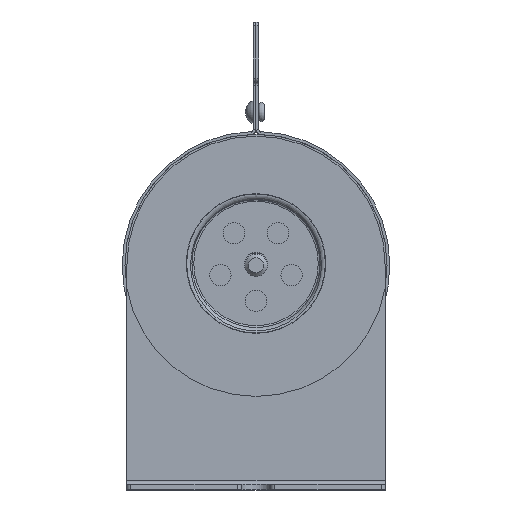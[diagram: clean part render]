
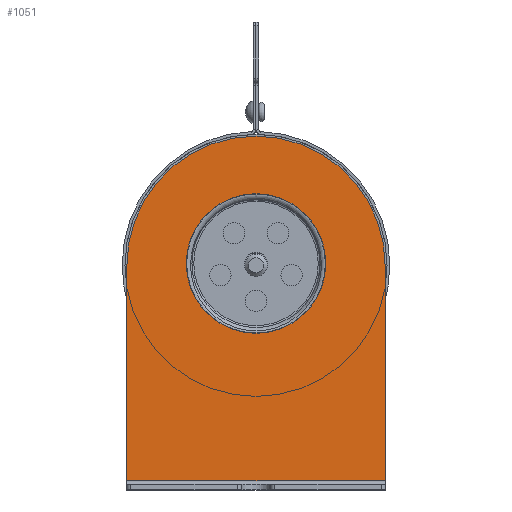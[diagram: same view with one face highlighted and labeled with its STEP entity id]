
A CAD part, left-side view. The second image highlights one B-rep face of the part: STEP entity #1051.
In plain terms, the highlighted planar face has unit normal (-1, 0, 0) as drawn and (1, 0, 0) by its records, which use the part's own axes.
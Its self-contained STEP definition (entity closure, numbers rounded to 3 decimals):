
#1051=ADVANCED_FACE('',(#1904,#1906),#1908,.T.);
#1904=FACE_BOUND('',#1905,.T.);
#1905=EDGE_LOOP('',(#3084,#3085,#3086,#3087));
#1906=FACE_BOUND('',#1907,.T.);
#1907=EDGE_LOOP('',(#3088));
#1908=PLANE('',#1909);
#1909=AXIS2_PLACEMENT_3D('',#1910,#1911,#1912);
#1910=CARTESIAN_POINT('',(1.5,0.,0.));
#1911=DIRECTION('',(1.,0.,0.));
#1912=DIRECTION('',(0.,1.,0.));
#3084=ORIENTED_EDGE('',*,*,#3724,.T.);
#3085=ORIENTED_EDGE('',*,*,#3725,.T.);
#3086=ORIENTED_EDGE('',*,*,#3726,.T.);
#3087=ORIENTED_EDGE('',*,*,#3727,.T.);
#3088=ORIENTED_EDGE('',*,*,#3722,.F.);
#3722=EDGE_CURVE('',#4081,#4081,#4082,.T.);
#3724=EDGE_CURVE('',#4085,#4086,#4087,.T.);
#3725=EDGE_CURVE('',#4086,#4088,#4089,.T.);
#3726=EDGE_CURVE('',#4088,#4090,#4091,.T.);
#3727=EDGE_CURVE('',#4090,#4085,#4092,.T.);
#4081=VERTEX_POINT('',#4717);
#4082=CIRCLE('',#4718,18.64);
#4085=VERTEX_POINT('',#4727);
#4086=VERTEX_POINT('',#4728);
#4087=LINE('',#4729,#4730);
#4088=VERTEX_POINT('',#4732);
#4089=LINE('',#4733,#4734);
#4090=VERTEX_POINT('',#4736);
#4091=CIRCLE('',#4737,34.5);
#4092=LINE('',#4741,#4742);
#4717=CARTESIAN_POINT('',(1.5,18.64,15.));
#4718=AXIS2_PLACEMENT_3D('',#4719,#4720,#4721);
#4719=CARTESIAN_POINT('',(1.5,0.,15.));
#4720=DIRECTION('',(1.,0.,0.));
#4721=DIRECTION('',(0.,1.,0.));
#4727=CARTESIAN_POINT('',(1.5,-34.5,-43.));
#4728=CARTESIAN_POINT('',(1.5,34.5,-43.));
#4729=CARTESIAN_POINT('',(1.5,-34.5,-43.));
#4730=VECTOR('',#4731,1.);
#4731=DIRECTION('',(0.,1.,0.));
#4732=CARTESIAN_POINT('',(1.5,34.5,14.5));
#4733=CARTESIAN_POINT('',(1.5,34.5,-43.));
#4734=VECTOR('',#4735,1.);
#4735=DIRECTION('',(0.,0.,1.));
#4736=CARTESIAN_POINT('',(1.5,-34.5,14.5));
#4737=AXIS2_PLACEMENT_3D('',#4738,#4739,#4740);
#4738=CARTESIAN_POINT('',(1.5,0.,14.5));
#4739=DIRECTION('',(1.,0.,0.));
#4740=DIRECTION('',(0.,1.,0.));
#4741=CARTESIAN_POINT('',(1.5,-34.5,14.5));
#4742=VECTOR('',#4743,1.);
#4743=DIRECTION('',(0.,0.,-1.));
